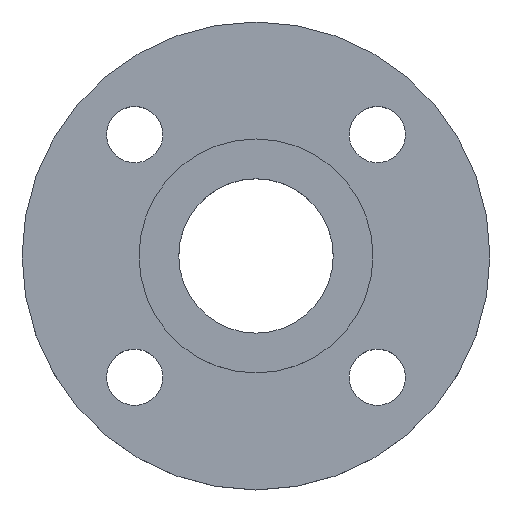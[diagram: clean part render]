
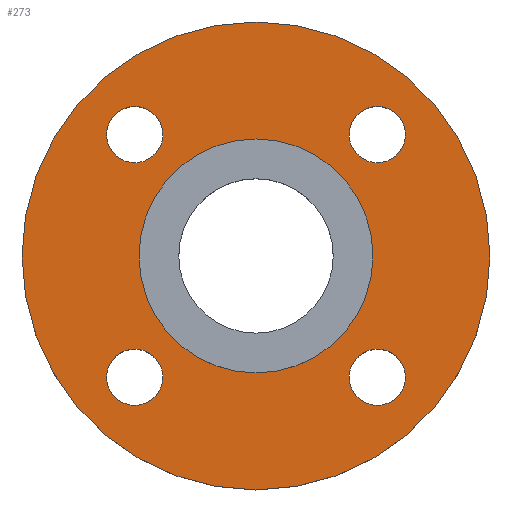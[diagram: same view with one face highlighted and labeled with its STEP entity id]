
A CAD part, top view. The second image highlights one B-rep face of the part: STEP entity #273.
In plain terms, the highlighted planar face has unit normal (0, 0, 1).
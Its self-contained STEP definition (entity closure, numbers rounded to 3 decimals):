
#4 = CIRCLE ( 'NONE', #11, 9. ) ;
#7 = FACE_OUTER_BOUND ( 'NONE', #431, .T. ) ;
#8 = FACE_BOUND ( 'NONE', #348, .T. ) ;
#11 = AXIS2_PLACEMENT_3D ( 'NONE', #113, #137, #110 ) ;
#15 = DIRECTION ( 'NONE',  ( 0., 0., 1. ) ) ;
#16 = CARTESIAN_POINT ( 'NONE',  ( 37.5, 0., -4.5 ) ) ;
#25 = EDGE_CURVE ( 'NONE', #528, #325, #161, .T. ) ;
#52 = DIRECTION ( 'NONE',  ( 1., 0., 0. ) ) ;
#57 = CARTESIAN_POINT ( 'NONE',  ( -38.891, -38.891, -4.5 ) ) ;
#58 = DIRECTION ( 'NONE',  ( 0., 0., -1. ) ) ;
#70 = PLANE ( 'NONE',  #160 ) ;
#75 = CARTESIAN_POINT ( 'NONE',  ( 47.891, -38.891, -4.5 ) ) ;
#78 = EDGE_CURVE ( 'NONE', #532, #450, #515, .T. ) ;
#81 = CARTESIAN_POINT ( 'NONE',  ( -47.891, 38.891, -4.5 ) ) ;
#89 = DIRECTION ( 'NONE',  ( 1., 0., 0. ) ) ;
#90 = CARTESIAN_POINT ( 'NONE',  ( 0., 0., -4.5 ) ) ;
#91 = DIRECTION ( 'NONE',  ( 0., 0., -1. ) ) ;
#99 = CARTESIAN_POINT ( 'NONE',  ( 75., 0., -4.5 ) ) ;
#105 = AXIS2_PLACEMENT_3D ( 'NONE', #607, #609, #610 ) ;
#110 = DIRECTION ( 'NONE',  ( 1., 0., 0. ) ) ;
#113 = CARTESIAN_POINT ( 'NONE',  ( 38.891, -38.891, -4.5 ) ) ;
#127 = EDGE_CURVE ( 'NONE', #344, #324, #680, .T. ) ;
#129 = AXIS2_PLACEMENT_3D ( 'NONE', #604, #605, #606 ) ;
#132 = EDGE_CURVE ( 'NONE', #320, #482, #709, .T. ) ;
#137 = DIRECTION ( 'NONE',  ( 0., 0., -1. ) ) ;
#139 = CARTESIAN_POINT ( 'NONE',  ( -75., 0., -4.5 ) ) ;
#143 = EDGE_CURVE ( 'NONE', #530, #533, #175, .T. ) ;
#145 = AXIS2_PLACEMENT_3D ( 'NONE', #90, #91, #189 ) ;
#147 = CARTESIAN_POINT ( 'NONE',  ( 47.891, 38.891, -4.5 ) ) ;
#150 = CARTESIAN_POINT ( 'NONE',  ( -29.891, 38.891, -4.5 ) ) ;
#153 = CIRCLE ( 'NONE', #145, 75. ) ;
#155 = AXIS2_PLACEMENT_3D ( 'NONE', #264, #265, #266 ) ;
#156 = EDGE_CURVE ( 'NONE', #517, #423, #588, .T. ) ;
#160 = AXIS2_PLACEMENT_3D ( 'NONE', #16, #15, #89 ) ;
#161 = CIRCLE ( 'NONE', #375, 9. ) ;
#175 = CIRCLE ( 'NONE', #541, 9. ) ;
#188 = FACE_BOUND ( 'NONE', #412, .T. ) ;
#189 = DIRECTION ( 'NONE',  ( -1., 0., 0. ) ) ;
#218 = CARTESIAN_POINT ( 'NONE',  ( 0., 0., -4.5 ) ) ;
#222 = DIRECTION ( 'NONE',  ( 0., 0., -1. ) ) ;
#223 = DIRECTION ( 'NONE',  ( -1., 0., 0. ) ) ;
#227 = AXIS2_PLACEMENT_3D ( 'NONE', #580, #581, #582 ) ;
#233 = CIRCLE ( 'NONE', #473, 37.5 ) ;
#241 = CARTESIAN_POINT ( 'NONE',  ( -38.891, 38.891, -4.5 ) ) ;
#242 = DIRECTION ( 'NONE',  ( 0., 0., -1. ) ) ;
#243 = DIRECTION ( 'NONE',  ( 1., 0., 0. ) ) ;
#264 = CARTESIAN_POINT ( 'NONE',  ( 38.891, 38.891, -4.5 ) ) ;
#265 = DIRECTION ( 'NONE',  ( 0., 0., -1. ) ) ;
#266 = DIRECTION ( 'NONE',  ( 1., 0., 0. ) ) ;
#270 = CARTESIAN_POINT ( 'NONE',  ( 37.5, 0., -4.5 ) ) ;
#273 = ADVANCED_FACE ( 'NONE', ( #719, #720, #722, #188, #8, #7 ), #70, .T. ) ;
#278 = EDGE_CURVE ( 'NONE', #423, #517, #153, .T. ) ;
#279 = CARTESIAN_POINT ( 'NONE',  ( -47.891, -38.891, -4.5 ) ) ;
#280 = CARTESIAN_POINT ( 'NONE',  ( 29.891, 38.891, -4.5 ) ) ;
#285 = CARTESIAN_POINT ( 'NONE',  ( 29.891, -38.891, -4.5 ) ) ;
#288 = CARTESIAN_POINT ( 'NONE',  ( -37.5, 0., -4.5 ) ) ;
#299 = EDGE_CURVE ( 'NONE', #482, #320, #233, .T. ) ;
#303 = CARTESIAN_POINT ( 'NONE',  ( -29.891, -38.891, -4.5 ) ) ;
#308 = CIRCLE ( 'NONE', #470, 9. ) ;
#312 = EDGE_CURVE ( 'NONE', #533, #530, #679, .T. ) ;
#316 = EDGE_CURVE ( 'NONE', #325, #528, #414, .T. ) ;
#320 = VERTEX_POINT ( 'NONE', #270 ) ;
#321 = EDGE_LOOP ( 'NONE', ( #425, #426 ) ) ;
#324 = VERTEX_POINT ( 'NONE', #279 ) ;
#325 = VERTEX_POINT ( 'NONE', #280 ) ;
#344 = VERTEX_POINT ( 'NONE', #303 ) ;
#348 = EDGE_LOOP ( 'NONE', ( #438, #439 ) ) ;
#351 = EDGE_LOOP ( 'NONE', ( #432, #434 ) ) ;
#372 = AXIS2_PLACEMENT_3D ( 'NONE', #625, #626, #627 ) ;
#375 = AXIS2_PLACEMENT_3D ( 'NONE', #558, #559, #560 ) ;
#409 = EDGE_CURVE ( 'NONE', #450, #532, #4, .T. ) ;
#412 = EDGE_LOOP ( 'NONE', ( #435, #437 ) ) ;
#414 = CIRCLE ( 'NONE', #155, 9. ) ;
#423 = VERTEX_POINT ( 'NONE', #139 ) ;
#425 = ORIENTED_EDGE ( 'NONE', *, *, #78, .T. ) ;
#426 = ORIENTED_EDGE ( 'NONE', *, *, #409, .T. ) ;
#427 = ORIENTED_EDGE ( 'NONE', *, *, #127, .T. ) ;
#430 = ORIENTED_EDGE ( 'NONE', *, *, #676, .T. ) ;
#431 = EDGE_LOOP ( 'NONE', ( #441, #442 ) ) ;
#432 = ORIENTED_EDGE ( 'NONE', *, *, #143, .T. ) ;
#434 = ORIENTED_EDGE ( 'NONE', *, *, #312, .T. ) ;
#435 = ORIENTED_EDGE ( 'NONE', *, *, #25, .T. ) ;
#437 = ORIENTED_EDGE ( 'NONE', *, *, #316, .T. ) ;
#438 = ORIENTED_EDGE ( 'NONE', *, *, #299, .T. ) ;
#439 = ORIENTED_EDGE ( 'NONE', *, *, #132, .T. ) ;
#441 = ORIENTED_EDGE ( 'NONE', *, *, #156, .F. ) ;
#442 = ORIENTED_EDGE ( 'NONE', *, *, #278, .F. ) ;
#450 = VERTEX_POINT ( 'NONE', #285 ) ;
#470 = AXIS2_PLACEMENT_3D ( 'NONE', #57, #58, #52 ) ;
#473 = AXIS2_PLACEMENT_3D ( 'NONE', #218, #222, #223 ) ;
#482 = VERTEX_POINT ( 'NONE', #288 ) ;
#511 = EDGE_LOOP ( 'NONE', ( #427, #430 ) ) ;
#515 = CIRCLE ( 'NONE', #227, 9. ) ;
#517 = VERTEX_POINT ( 'NONE', #99 ) ;
#528 = VERTEX_POINT ( 'NONE', #147 ) ;
#530 = VERTEX_POINT ( 'NONE', #150 ) ;
#532 = VERTEX_POINT ( 'NONE', #75 ) ;
#533 = VERTEX_POINT ( 'NONE', #81 ) ;
#541 = AXIS2_PLACEMENT_3D ( 'NONE', #615, #616, #617 ) ;
#558 = CARTESIAN_POINT ( 'NONE',  ( 38.891, 38.891, -4.5 ) ) ;
#559 = DIRECTION ( 'NONE',  ( 0., 0., -1. ) ) ;
#560 = DIRECTION ( 'NONE',  ( 1., 0., 0. ) ) ;
#580 = CARTESIAN_POINT ( 'NONE',  ( 38.891, -38.891, -4.5 ) ) ;
#581 = DIRECTION ( 'NONE',  ( 0., 0., -1. ) ) ;
#582 = DIRECTION ( 'NONE',  ( 1., 0., 0. ) ) ;
#588 = CIRCLE ( 'NONE', #372, 75. ) ;
#604 = CARTESIAN_POINT ( 'NONE',  ( -38.891, -38.891, -4.5 ) ) ;
#605 = DIRECTION ( 'NONE',  ( 0., 0., -1. ) ) ;
#606 = DIRECTION ( 'NONE',  ( 1., 0., 0. ) ) ;
#607 = CARTESIAN_POINT ( 'NONE',  ( 0., 0., -4.5 ) ) ;
#609 = DIRECTION ( 'NONE',  ( 0., 0., -1. ) ) ;
#610 = DIRECTION ( 'NONE',  ( -1., 0., 0. ) ) ;
#615 = CARTESIAN_POINT ( 'NONE',  ( -38.891, 38.891, -4.5 ) ) ;
#616 = DIRECTION ( 'NONE',  ( 0., 0., -1. ) ) ;
#617 = DIRECTION ( 'NONE',  ( 1., 0., 0. ) ) ;
#625 = CARTESIAN_POINT ( 'NONE',  ( 0., 0., -4.5 ) ) ;
#626 = DIRECTION ( 'NONE',  ( 0., 0., -1. ) ) ;
#627 = DIRECTION ( 'NONE',  ( -1., 0., 0. ) ) ;
#676 = EDGE_CURVE ( 'NONE', #324, #344, #308, .T. ) ;
#679 = CIRCLE ( 'NONE', #721, 9. ) ;
#680 = CIRCLE ( 'NONE', #129, 9. ) ;
#709 = CIRCLE ( 'NONE', #105, 37.5 ) ;
#719 = FACE_BOUND ( 'NONE', #321, .T. ) ;
#720 = FACE_BOUND ( 'NONE', #511, .T. ) ;
#721 = AXIS2_PLACEMENT_3D ( 'NONE', #241, #242, #243 ) ;
#722 = FACE_BOUND ( 'NONE', #351, .T. ) ;
